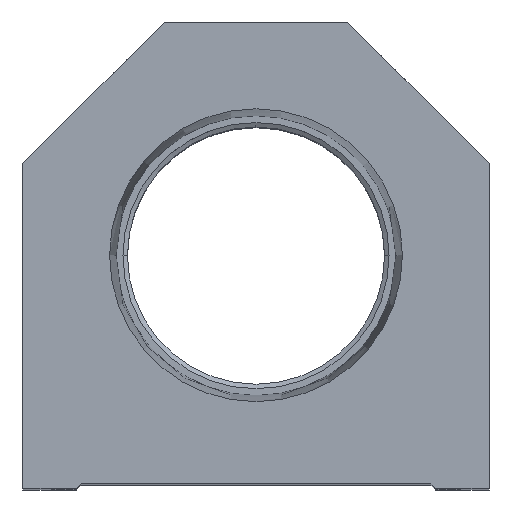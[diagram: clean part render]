
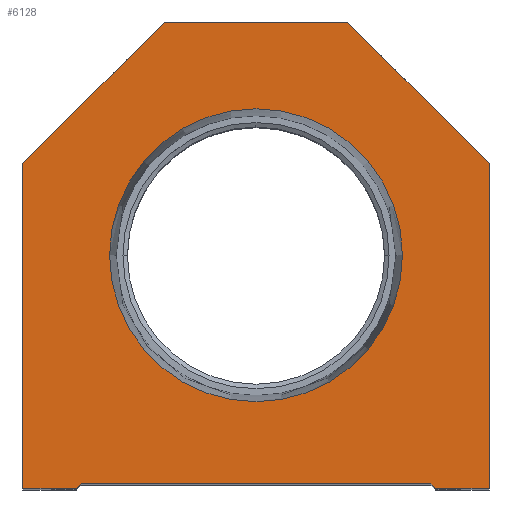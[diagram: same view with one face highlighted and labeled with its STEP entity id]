
A CAD part, top view. The second image highlights one B-rep face of the part: STEP entity #6128.
In plain terms, the highlighted planar face has unit normal (0, 0, 1).
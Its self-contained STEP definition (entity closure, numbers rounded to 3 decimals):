
#27 = CARTESIAN_POINT ( 'NONE',  ( 10., 50.8, 0. ) ) ;
#301 = CARTESIAN_POINT ( 'NONE',  ( 15.947, 25.4, 0. ) ) ;
#333 = DIRECTION ( 'NONE',  ( 0.707, -0.707, 0. ) ) ;
#408 = EDGE_CURVE ( 'NONE', #9293, #2890, #2151, .T. ) ;
#528 = ORIENTED_EDGE ( 'NONE', *, *, #7899, .T. ) ;
#753 = DIRECTION ( 'NONE',  ( 1., 0., 0. ) ) ;
#950 = CARTESIAN_POINT ( 'NONE',  ( 19.55, 0., 0. ) ) ;
#1216 = VECTOR ( 'NONE', #9868, 1000. ) ;
#1355 = LINE ( 'NONE', #10227, #3652 ) ;
#1397 = DIRECTION ( 'NONE',  ( 1., 0., 0. ) ) ;
#1653 = VECTOR ( 'NONE', #333, 1000. ) ;
#2151 = LINE ( 'NONE', #6593, #1216 ) ;
#2171 = DIRECTION ( 'NONE',  ( 1., 0., 0. ) ) ;
#2333 = VERTEX_POINT ( 'NONE', #8129 ) ;
#2572 = EDGE_CURVE ( 'NONE', #8616, #13329, #11374, .T. ) ;
#2890 = VERTEX_POINT ( 'NONE', #8131 ) ;
#2949 = DIRECTION ( 'NONE',  ( 0., 0., 1. ) ) ;
#2951 = ORIENTED_EDGE ( 'NONE', *, *, #10603, .F. ) ;
#2952 = VERTEX_POINT ( 'NONE', #9305 ) ;
#3009 = CARTESIAN_POINT ( 'NONE',  ( 0., 25.4, 0. ) ) ;
#3383 = CARTESIAN_POINT ( 'NONE',  ( -25.4, 35.4, 0. ) ) ;
#3652 = VECTOR ( 'NONE', #10208, 1000. ) ;
#3725 = VERTEX_POINT ( 'NONE', #11992 ) ;
#3751 = LINE ( 'NONE', #13927, #12640 ) ;
#3899 = DIRECTION ( 'NONE',  ( 0., 1., 0. ) ) ;
#4242 = DIRECTION ( 'NONE',  ( 0., 0., 1. ) ) ;
#4297 = VECTOR ( 'NONE', #4861, 1000. ) ;
#4319 = ORIENTED_EDGE ( 'NONE', *, *, #408, .T. ) ;
#4439 = CARTESIAN_POINT ( 'NONE',  ( -25.4, 35.4, 0. ) ) ;
#4715 = CARTESIAN_POINT ( 'NONE',  ( 10., 50.8, 0. ) ) ;
#4861 = DIRECTION ( 'NONE',  ( -1., 0., 0. ) ) ;
#5269 = EDGE_CURVE ( 'NONE', #5788, #8547, #1355, .T. ) ;
#5634 = EDGE_CURVE ( 'NONE', #2952, #5788, #3751, .T. ) ;
#5656 = LINE ( 'NONE', #3383, #10933 ) ;
#5688 = LINE ( 'NONE', #12142, #13505 ) ;
#5788 = VERTEX_POINT ( 'NONE', #10161 ) ;
#5791 = DIRECTION ( 'NONE',  ( 1., 0., 0. ) ) ;
#6128 = ADVANCED_FACE ( 'NONE', ( #8604, #10857 ), #14225, .T. ) ;
#6355 = ORIENTED_EDGE ( 'NONE', *, *, #7671, .T. ) ;
#6445 = CARTESIAN_POINT ( 'NONE',  ( 19.05, 0.5, 0. ) ) ;
#6514 = DIRECTION ( 'NONE',  ( -0.707, -0.707, 0. ) ) ;
#6593 = CARTESIAN_POINT ( 'NONE',  ( -25.4, 0., 0. ) ) ;
#6607 = CIRCLE ( 'NONE', #8456, 15.947 ) ;
#6611 = VECTOR ( 'NONE', #9982, 1000. ) ;
#6805 = ORIENTED_EDGE ( 'NONE', *, *, #12153, .T. ) ;
#6994 = DIRECTION ( 'NONE',  ( 0., 0., 1. ) ) ;
#7615 = ORIENTED_EDGE ( 'NONE', *, *, #2572, .T. ) ;
#7671 = EDGE_CURVE ( 'NONE', #9734, #8616, #12305, .T. ) ;
#7899 = EDGE_CURVE ( 'NONE', #13329, #2952, #5688, .T. ) ;
#8129 = CARTESIAN_POINT ( 'NONE',  ( -15.947, 25.4, 0. ) ) ;
#8130 = LINE ( 'NONE', #4715, #4297 ) ;
#8131 = CARTESIAN_POINT ( 'NONE',  ( -25.4, 0., 0. ) ) ;
#8245 = EDGE_LOOP ( 'NONE', ( #2951, #12834 ) ) ;
#8422 = CARTESIAN_POINT ( 'NONE',  ( -19.05, 0.5, 0. ) ) ;
#8456 = AXIS2_PLACEMENT_3D ( 'NONE', #3009, #2949, #753 ) ;
#8547 = VERTEX_POINT ( 'NONE', #27 ) ;
#8604 = FACE_BOUND ( 'NONE', #8245, .T. ) ;
#8616 = VERTEX_POINT ( 'NONE', #6445 ) ;
#9028 = CARTESIAN_POINT ( 'NONE',  ( -9.775, 9.775, 0. ) ) ;
#9208 = ORIENTED_EDGE ( 'NONE', *, *, #13975, .T. ) ;
#9293 = VERTEX_POINT ( 'NONE', #4439 ) ;
#9305 = CARTESIAN_POINT ( 'NONE',  ( 25.4, 0., 0. ) ) ;
#9658 = EDGE_CURVE ( 'NONE', #2333, #10797, #13541, .T. ) ;
#9705 = ORIENTED_EDGE ( 'NONE', *, *, #5634, .T. ) ;
#9734 = VERTEX_POINT ( 'NONE', #8422 ) ;
#9868 = DIRECTION ( 'NONE',  ( 0., -1., 0. ) ) ;
#9982 = DIRECTION ( 'NONE',  ( 0.707, 0.707, 0. ) ) ;
#10088 = AXIS2_PLACEMENT_3D ( 'NONE', #12499, #6994, #11396 ) ;
#10161 = CARTESIAN_POINT ( 'NONE',  ( 25.4, 35.4, 0. ) ) ;
#10208 = DIRECTION ( 'NONE',  ( -0.707, 0.707, 0. ) ) ;
#10227 = CARTESIAN_POINT ( 'NONE',  ( 25.4, 35.4, 0. ) ) ;
#10603 = EDGE_CURVE ( 'NONE', #10797, #2333, #6607, .T. ) ;
#10797 = VERTEX_POINT ( 'NONE', #301 ) ;
#10857 = FACE_OUTER_BOUND ( 'NONE', #14313, .T. ) ;
#10933 = VECTOR ( 'NONE', #6514, 1000. ) ;
#11167 = LINE ( 'NONE', #12196, #13818 ) ;
#11272 = EDGE_CURVE ( 'NONE', #2890, #13960, #11167, .T. ) ;
#11338 = CARTESIAN_POINT ( 'NONE',  ( -19.05, 0.5, 0. ) ) ;
#11374 = LINE ( 'NONE', #13713, #1653 ) ;
#11396 = DIRECTION ( 'NONE',  ( 1., 0., 0. ) ) ;
#11624 = ORIENTED_EDGE ( 'NONE', *, *, #13427, .T. ) ;
#11992 = CARTESIAN_POINT ( 'NONE',  ( -10., 50.8, 0. ) ) ;
#12142 = CARTESIAN_POINT ( 'NONE',  ( 19.05, 0., 0. ) ) ;
#12153 = EDGE_CURVE ( 'NONE', #8547, #3725, #8130, .T. ) ;
#12196 = CARTESIAN_POINT ( 'NONE',  ( -19.05, 0., 0. ) ) ;
#12298 = DIRECTION ( 'NONE',  ( 1., 0., 0. ) ) ;
#12305 = LINE ( 'NONE', #11338, #12559 ) ;
#12418 = AXIS2_PLACEMENT_3D ( 'NONE', #13042, #4242, #5791 ) ;
#12499 = CARTESIAN_POINT ( 'NONE',  ( 0., 25.4, 0. ) ) ;
#12559 = VECTOR ( 'NONE', #1397, 1000. ) ;
#12640 = VECTOR ( 'NONE', #3899, 1000. ) ;
#12834 = ORIENTED_EDGE ( 'NONE', *, *, #9658, .F. ) ;
#12877 = ORIENTED_EDGE ( 'NONE', *, *, #5269, .T. ) ;
#13042 = CARTESIAN_POINT ( 'NONE',  ( 0., 0., 0. ) ) ;
#13329 = VERTEX_POINT ( 'NONE', #950 ) ;
#13373 = LINE ( 'NONE', #9028, #6611 ) ;
#13427 = EDGE_CURVE ( 'NONE', #13960, #9734, #13373, .T. ) ;
#13505 = VECTOR ( 'NONE', #12298, 1000. ) ;
#13541 = CIRCLE ( 'NONE', #10088, 15.947 ) ;
#13713 = CARTESIAN_POINT ( 'NONE',  ( 9.775, 9.775, 0. ) ) ;
#13818 = VECTOR ( 'NONE', #2171, 1000. ) ;
#13834 = ORIENTED_EDGE ( 'NONE', *, *, #11272, .T. ) ;
#13927 = CARTESIAN_POINT ( 'NONE',  ( 25.4, 0., 0. ) ) ;
#13960 = VERTEX_POINT ( 'NONE', #14320 ) ;
#13975 = EDGE_CURVE ( 'NONE', #3725, #9293, #5656, .T. ) ;
#14225 = PLANE ( 'NONE',  #12418 ) ;
#14313 = EDGE_LOOP ( 'NONE', ( #13834, #11624, #6355, #7615, #528, #9705, #12877, #6805, #9208, #4319 ) ) ;
#14320 = CARTESIAN_POINT ( 'NONE',  ( -19.55, 0., 0. ) ) ;
